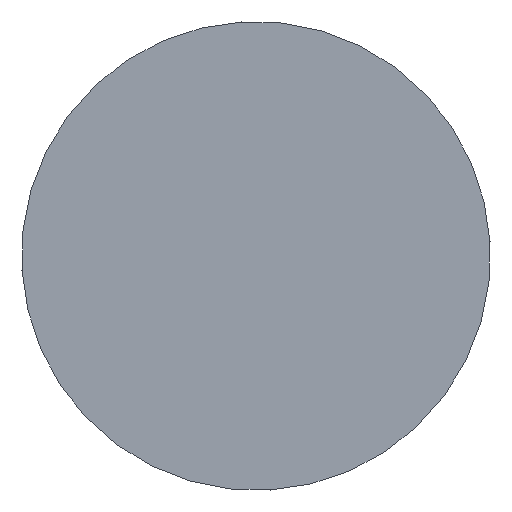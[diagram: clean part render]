
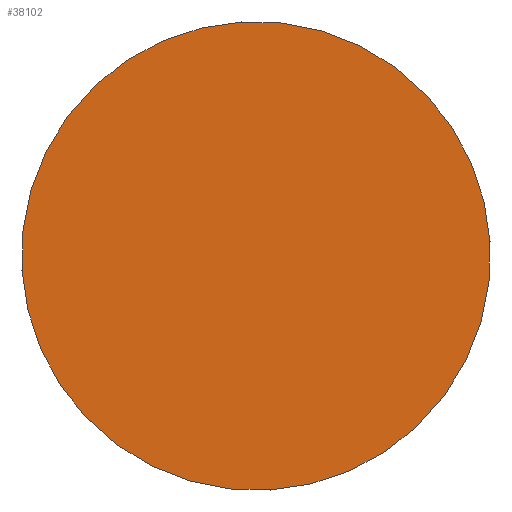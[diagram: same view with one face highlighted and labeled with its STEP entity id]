
A CAD part, left-side view. The second image highlights one B-rep face of the part: STEP entity #38102.
In plain terms, the highlighted planar face has unit normal (-1, 0, 0).
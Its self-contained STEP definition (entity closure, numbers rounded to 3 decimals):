
#38079=CARTESIAN_POINT('',(-27.588,-14.88,29.551));
#38080=VERTEX_POINT('',#38079);
#38081=CARTESIAN_POINT('',(-27.588,29.719,0.));
#38082=DIRECTION('',(-1.0,0.,0.));
#38083=DIRECTION('',(0.,-0.834,0.552));
#38084=AXIS2_PLACEMENT_3D('',#38081,#38082,#38083);
#38085=CIRCLE('',#38084,53.5);
#38086=EDGE_CURVE('',#38080,#38080,#38085,.T.);
#38094=CARTESIAN_POINT('',(-27.588,-9.253,25.822));
#38095=DIRECTION('',(-1.0,0.0,0.0));
#38096=DIRECTION('',(0.0,0.552,0.834));
#38097=AXIS2_PLACEMENT_3D('',#38094,#38095,#38096);
#38098=PLANE('',#38097);
#38099=ORIENTED_EDGE('',*,*,#38086,.T.);
#38100=EDGE_LOOP('',(#38099));
#38101=FACE_OUTER_BOUND('',#38100,.T.);
#38102=ADVANCED_FACE('',(#38101),#38098,.T.);
